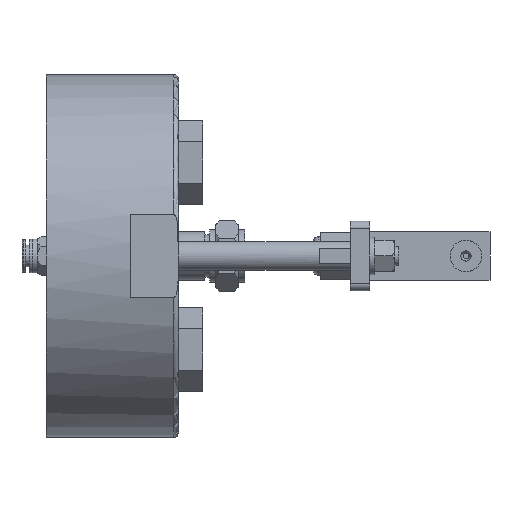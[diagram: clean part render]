
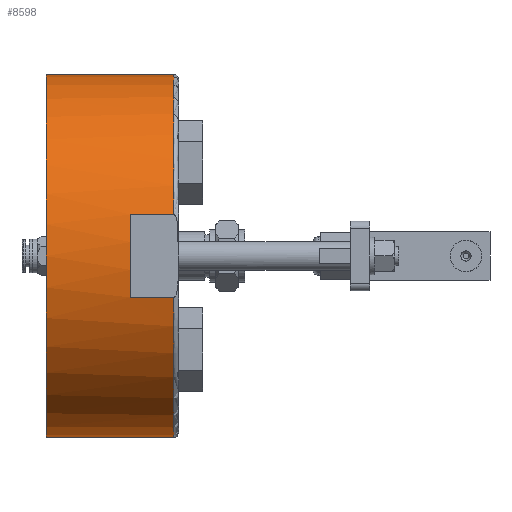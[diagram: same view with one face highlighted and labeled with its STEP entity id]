
A CAD part, left-side view. The second image highlights one B-rep face of the part: STEP entity #8598.
In plain terms, the highlighted cylindrical face has radius 75.5 mm (diameter 151 mm), a partial arc.
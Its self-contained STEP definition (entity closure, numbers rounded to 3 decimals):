
#196 = DIRECTION ( 'NONE',  ( 0., -1., 0. ) ) ;
#337 = LINE ( 'NONE', #2271, #7782 ) ;
#462 = DIRECTION ( 'NONE',  ( 0., 1., 0. ) ) ;
#499 = CARTESIAN_POINT ( 'NONE',  ( 0., 159.5, 0. ) ) ;
#571 = FACE_OUTER_BOUND ( 'NONE', #3369, .T. ) ;
#718 = DIRECTION ( 'NONE',  ( 0., -1., 0. ) ) ;
#727 = CARTESIAN_POINT ( 'NONE',  ( 0., 106.5, -75.5 ) ) ;
#736 = CARTESIAN_POINT ( 'NONE',  ( -73.5, 124.5, -17.263 ) ) ;
#787 = CARTESIAN_POINT ( 'NONE',  ( -73.5, 124.5, 17.263 ) ) ;
#815 = ORIENTED_EDGE ( 'NONE', *, *, #9041, .T. ) ;
#1744 = DIRECTION ( 'NONE',  ( 0., 0., 1. ) ) ;
#1945 = CYLINDRICAL_SURFACE ( 'NONE', #3169, 75.5 ) ;
#2002 = AXIS2_PLACEMENT_3D ( 'NONE', #6776, #462, #6814 ) ;
#2186 = LINE ( 'NONE', #7309, #5132 ) ;
#2227 = VERTEX_POINT ( 'NONE', #6669 ) ;
#2271 = CARTESIAN_POINT ( 'NONE',  ( 0., 159.5, 75.5 ) ) ;
#2319 = VERTEX_POINT ( 'NONE', #6157 ) ;
#2367 = DIRECTION ( 'NONE',  ( 0., 1., 0. ) ) ;
#2469 = ORIENTED_EDGE ( 'NONE', *, *, #6032, .F. ) ;
#2496 = VERTEX_POINT ( 'NONE', #9076 ) ;
#2704 = ORIENTED_EDGE ( 'NONE', *, *, #5058, .T. ) ;
#2715 = VERTEX_POINT ( 'NONE', #736 ) ;
#2900 = VERTEX_POINT ( 'NONE', #9124 ) ;
#3102 = CARTESIAN_POINT ( 'NONE',  ( 0., 106.5, 0. ) ) ;
#3169 = AXIS2_PLACEMENT_3D ( 'NONE', #9063, #9018, #3977 ) ;
#3267 = ORIENTED_EDGE ( 'NONE', *, *, #7150, .T. ) ;
#3369 = EDGE_LOOP ( 'NONE', ( #7563, #2469, #8216, #2704, #3267, #5031, #7594, #815 ) ) ;
#3711 = DIRECTION ( 'NONE',  ( 0., 0., 1. ) ) ;
#3870 = VERTEX_POINT ( 'NONE', #787 ) ;
#3922 = CARTESIAN_POINT ( 'NONE',  ( -73.5, 159.5, -17.263 ) ) ;
#3977 = DIRECTION ( 'NONE',  ( 0., 0., -1. ) ) ;
#4077 = VECTOR ( 'NONE', #718, 1000. ) ;
#4182 = CARTESIAN_POINT ( 'NONE',  ( -73.5, 106.5, -17.263 ) ) ;
#4305 = CARTESIAN_POINT ( 'NONE',  ( 0., 159.5, -75.5 ) ) ;
#4583 = VERTEX_POINT ( 'NONE', #4182 ) ;
#4669 = CIRCLE ( 'NONE', #6737, 75.5 ) ;
#4873 = DIRECTION ( 'NONE',  ( 0., 1., 0. ) ) ;
#5031 = ORIENTED_EDGE ( 'NONE', *, *, #5457, .T. ) ;
#5032 = DIRECTION ( 'NONE',  ( 0., 0., 1. ) ) ;
#5058 = EDGE_CURVE ( 'NONE', #6761, #4583, #7181, .T. ) ;
#5132 = VECTOR ( 'NONE', #5229, 1000. ) ;
#5229 = DIRECTION ( 'NONE',  ( 0., -1., 0. ) ) ;
#5389 = AXIS2_PLACEMENT_3D ( 'NONE', #3102, #2367, #3711 ) ;
#5457 = EDGE_CURVE ( 'NONE', #2715, #3870, #8805, .T. ) ;
#6032 = EDGE_CURVE ( 'NONE', #2319, #2900, #4669, .T. ) ;
#6157 = CARTESIAN_POINT ( 'NONE',  ( 0., 159.5, -75.5 ) ) ;
#6669 = CARTESIAN_POINT ( 'NONE',  ( 0., 106.5, 75.5 ) ) ;
#6737 = AXIS2_PLACEMENT_3D ( 'NONE', #499, #8209, #1744 ) ;
#6761 = VERTEX_POINT ( 'NONE', #727 ) ;
#6776 = CARTESIAN_POINT ( 'NONE',  ( 0., 106.5, 0. ) ) ;
#6814 = DIRECTION ( 'NONE',  ( 0., 0., 1. ) ) ;
#6890 = VECTOR ( 'NONE', #4873, 1000. ) ;
#7150 = EDGE_CURVE ( 'NONE', #4583, #2715, #8094, .T. ) ;
#7163 = CARTESIAN_POINT ( 'NONE',  ( 0., 124.5, 0. ) ) ;
#7181 = CIRCLE ( 'NONE', #5389, 75.5 ) ;
#7187 = AXIS2_PLACEMENT_3D ( 'NONE', #7163, #8552, #5032 ) ;
#7309 = CARTESIAN_POINT ( 'NONE',  ( -73.5, 159.5, 17.263 ) ) ;
#7563 = ORIENTED_EDGE ( 'NONE', *, *, #7834, .F. ) ;
#7594 = ORIENTED_EDGE ( 'NONE', *, *, #8429, .T. ) ;
#7679 = EDGE_CURVE ( 'NONE', #2319, #6761, #7822, .T. ) ;
#7757 = CIRCLE ( 'NONE', #2002, 75.5 ) ;
#7782 = VECTOR ( 'NONE', #196, 1000. ) ;
#7822 = LINE ( 'NONE', #4305, #4077 ) ;
#7834 = EDGE_CURVE ( 'NONE', #2900, #2227, #337, .T. ) ;
#8094 = LINE ( 'NONE', #3922, #6890 ) ;
#8209 = DIRECTION ( 'NONE',  ( 0., 1., 0. ) ) ;
#8216 = ORIENTED_EDGE ( 'NONE', *, *, #7679, .T. ) ;
#8429 = EDGE_CURVE ( 'NONE', #3870, #2496, #2186, .T. ) ;
#8552 = DIRECTION ( 'NONE',  ( 0., 1., 0. ) ) ;
#8598 = ADVANCED_FACE ( 'NONE', ( #571 ), #1945, .T. ) ;
#8805 = CIRCLE ( 'NONE', #7187, 75.5 ) ;
#9018 = DIRECTION ( 'NONE',  ( 0., -1., 0. ) ) ;
#9041 = EDGE_CURVE ( 'NONE', #2496, #2227, #7757, .T. ) ;
#9063 = CARTESIAN_POINT ( 'NONE',  ( 0., 159.5, 0. ) ) ;
#9076 = CARTESIAN_POINT ( 'NONE',  ( -73.5, 106.5, 17.263 ) ) ;
#9124 = CARTESIAN_POINT ( 'NONE',  ( 0., 159.5, 75.5 ) ) ;
